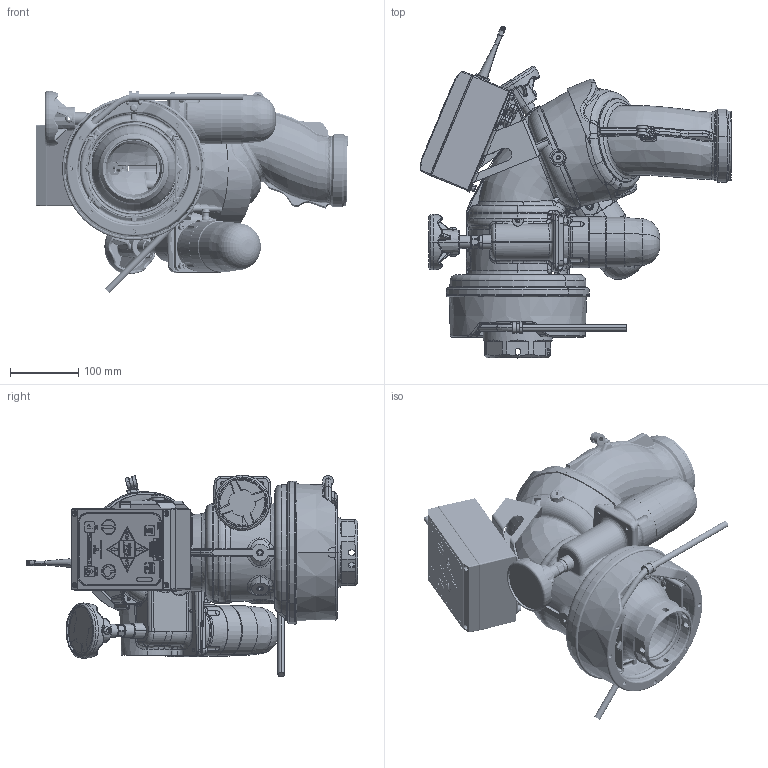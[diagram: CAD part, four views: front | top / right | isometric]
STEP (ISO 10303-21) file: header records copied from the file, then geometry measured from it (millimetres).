
FILE_DESCRIPTION (( 'STEP AP203' ), '1' );
FILE_NAME ('Y4-EL1A_Horizontal.STEP', '2014-07-03T17:43:17', ( '' ), ( '' ), 'SwSTEP 2.0', 'SolidWorks 2014', '' );
FILE_SCHEMA (( 'CONFIG_CONTROL_DESIGN' ));
Products named in the file (1): Y4-EL1A_Horizontal
Bounding box: 456.1 x 486.3 x 295.8 mm (x, y, z)
Surface area: 1005980 mm2 (no closed solid volume)
Topology: 0 solids, 244 shells, 2951 faces, 12623 edges, 9688 vertices
Faces by surface type: plane 939, cylinder 695, bspline 641, torus 346, cone 297, sphere 33
Entity records: 204524 total; most frequent: CARTESIAN_POINT 111793, ORIENTED_EDGE 18143, DIRECTION 16602, EDGE_CURVE 12577, VERTEX_POINT 9673, AXIS2_PLACEMENT_3D 5593, VECTOR 5416, LINE 5416
